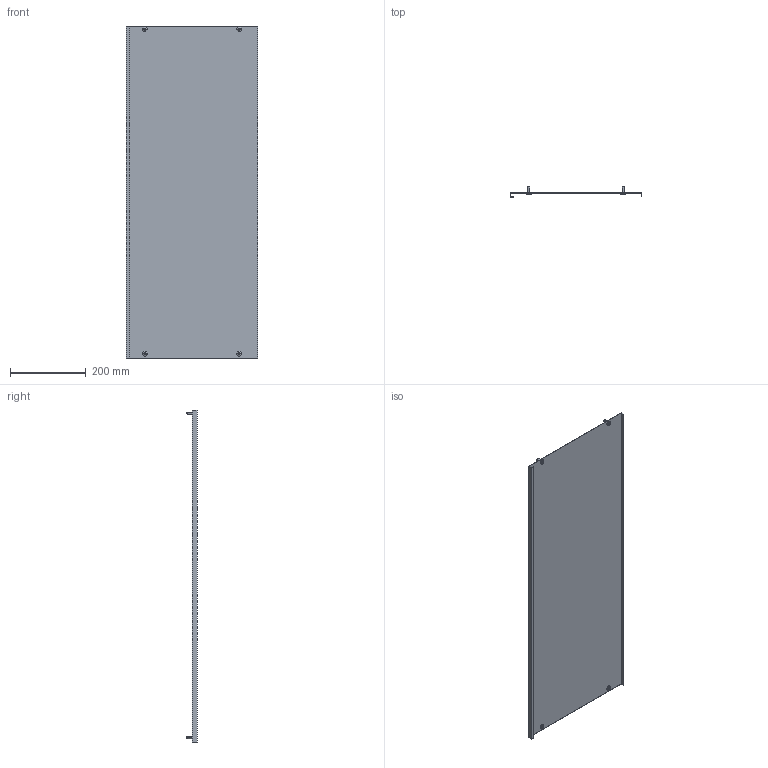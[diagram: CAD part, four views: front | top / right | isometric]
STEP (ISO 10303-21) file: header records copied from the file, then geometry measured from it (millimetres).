
FILE_DESCRIPTION (( 'STEP AP214' ), '1' );
FILE_NAME ('FO-00-PVS-035-100 Ïëàñòðîí ãëóõîé âíóòðåííèé 350õ1000.STEP', '2025-09-30T07:44:08', ( '' ), ( '' ), 'SwSTEP 2.0', 'SolidWorks 2023', '' );
FILE_SCHEMA (( 'AUTOMOTIVE_DESIGN' ));
Length unit declared in the file: millimetre
Products named in the file (3): FO-00-PVS-035-100 Пластрон глухой внутренний 350х1000; Винт M6x16 035-100 IEK
Assembly tree (3 placements, depth 2):
  FO-00-PVS-035-100 Пластрон глухой внутренний 350х1000
    FO-00-PVS-035-100 Пластрон глухой внутренний 350х1000
    Винт M6x16 035-100 IEK  x2
Bounding box: 348 x 27 x 879 mm (x, y, z)
Volume: 495963.5 mm3; surface area: 663633.5 mm2
Topology: 5 solids, 5 shells, 150 faces, 392 edges, 256 vertices
Faces by surface type: cylinder 88, plane 42, cone 12, bspline 8
Entity records: 3233 total; most frequent: CARTESIAN_POINT 724, ORIENTED_EDGE 512, DIRECTION 500, EDGE_CURVE 256, AXIS2_PLACEMENT_3D 180, VERTEX_POINT 168, VECTOR 140, LINE 140
